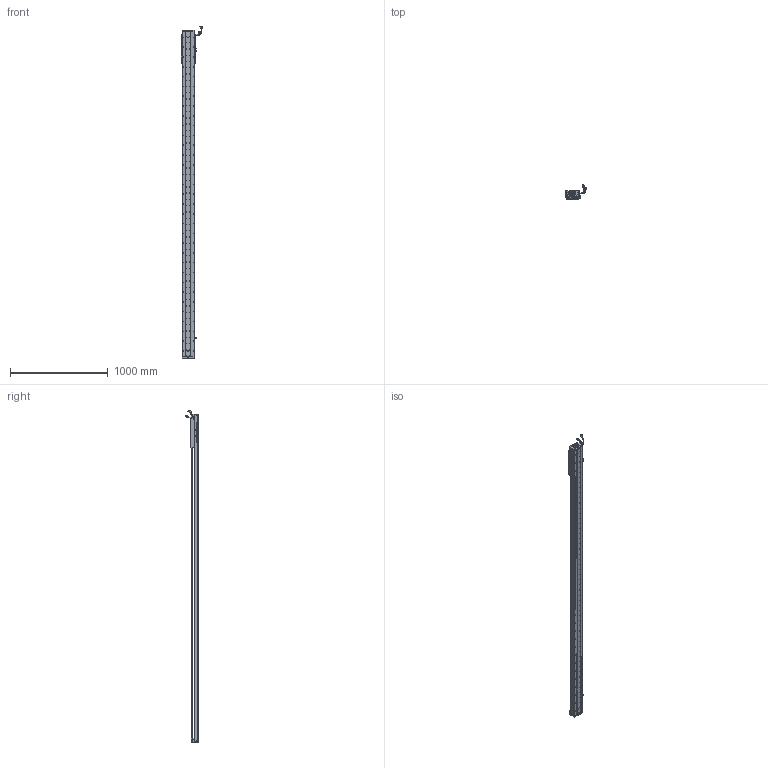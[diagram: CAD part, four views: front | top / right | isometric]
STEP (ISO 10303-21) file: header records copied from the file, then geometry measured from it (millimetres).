
FILE_DESCRIPTION (( 'STEP AP203' ), '1' );
FILE_NAME ('Z4-RY120D-1-L500-B-K.SLDASM_2950.step', '2021-05-17T06:12:12', ( '盈信电脑' ), ( '东莞市道滘镇水果街19号' ), 'SwSTEP 2.0', 'SolidWorks 2016', '' );
FILE_SCHEMA (( 'CONFIG_CONTROL_DESIGN' ));
Length unit declared in the file: millimetre
Products named in the file (37): SCREW-M1.6-2; 672嫖萇羲壽假蚾釱; LABEL; SCREW-M1.7-1; 120-Z-臏賑輸盄裔(21遴); HARNESS; SCREW-M1.6-3; HOLDER0; SCALE; RY100FB-遵嫖萇覜茼え; SCREW-M1.7; Z4-RY120铝滑块（21款）; SEAL; SCALE-Part-2; SHIELDPLATE; Z-RY120D詩湍狟揤裔; Z4-RY120-500-倰第菁釱_2950; HARNESS-Part-2; SEAL-Part-1; Z4-RY120D-1-L500-B-K.SLDASM_2950; SCALE-Part-1; Z-120詩湍傷裔啣; COVER; 140雄赽晤鎢ん堤盄; HARNESS-Part-1; PBU_SHEET; 覜茼ん672; 榋妏寠巭燃_暯_M2_2; 140蚥薯蝶輸; SCREW-M1.6-1; COVER-Part-1; 080黍杅芛假蚾釱21遴; SCREW-M1.6; LABEL-Part-1; Z-RY120D詩湍奻揤裔; PSLH080_PSLF2; Z4-RY120-L500詩湍100mm遵_2950
Assembly tree (43 placements, depth 4):
  Z4-RY120D-1-L500-B-K.SLDASM_2950
    Z4-RY120-500-倰第菁釱_2950
    覜茼ん672  x3
    672嫖萇羲壽假蚾釱  x2
    Z4-RY120铝滑块（21款）
    PSLH080_PSLF2
      SCALE
        SCALE-Part-1
        SCALE-Part-2
      HARNESS
        HARNESS-Part-1
        HARNESS-Part-2
      LABEL
        LABEL-Part-1
      COVER
        COVER-Part-1
      SEAL
        SEAL-Part-1
      榋妏寠巭燃_暯_M2_2
      SHIELDPLATE
      SCREW-M1.7
      SCREW-M1.7-1
      PBU_SHEET
      SCREW-M1.6
      SCREW-M1.6-1
      SCREW-M1.6-2
      SCREW-M1.6-3
      HOLDER0
    080黍杅芛假蚾釱21遴
    120-Z-臏賑輸盄裔(21遴)
    140雄赽晤鎢ん堤盄
    140蚥薯蝶輸  x2
    RY100FB-遵嫖萇覜茼え
    Z-120詩湍傷裔啣  x2
    Z-RY120D詩湍奻揤裔  x2
    Z-RY120D詩湍狟揤裔  x2
    Z4-RY120-L500詩湍100mm遵_2950
Bounding box: 222.83 x 140.94 x 3388.99 mm (x, y, z)
Volume: 7892745.7 mm3; surface area: 2749072.1 mm2
Topology: 38 solids, 38 shells, 4097 faces, 11846 edges, 7470 vertices
Faces by surface type: cylinder 2236, plane 1305, cone 434, torus 69, bspline 53
Entity records: 141829 total; most frequent: CARTESIAN_POINT 44802, ORIENTED_EDGE 20348, DIRECTION 18334, EDGE_CURVE 10174, AXIS2_PLACEMENT_3D 6808, VERTEX_POINT 6590, VECTOR 4718, LINE 4718
